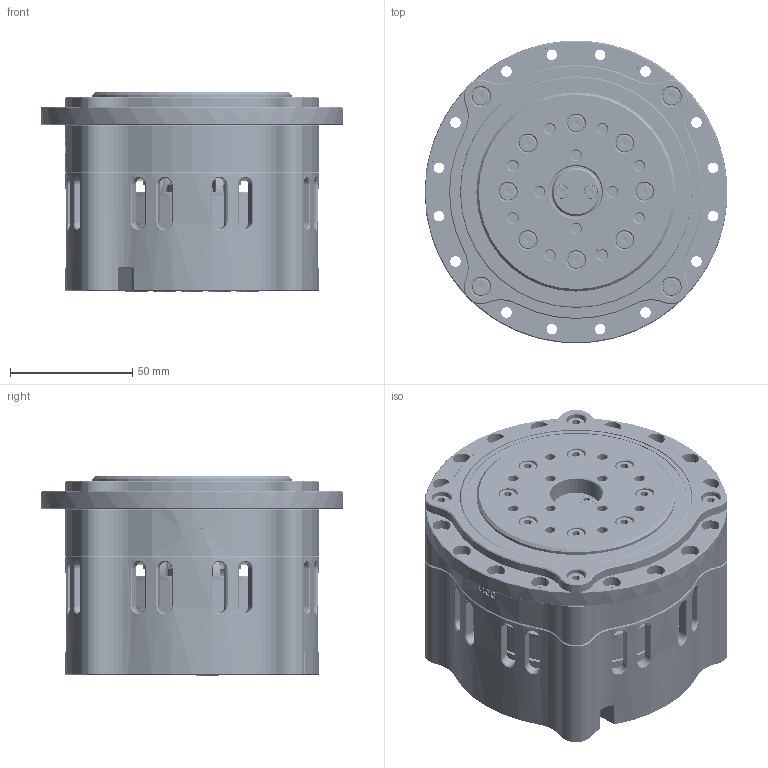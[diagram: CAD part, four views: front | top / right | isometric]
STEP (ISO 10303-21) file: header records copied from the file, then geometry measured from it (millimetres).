
FILE_DESCRIPTION(/* description */ (''),/* implementation_level */ '2;1');
FILE_NAME(/* name */ 'Macro Actuator 1-36.step',/* time_stamp */ '2026-11-10T18:20:01+08:00',/* author */ (''),/* organization */ (''),/* preprocessor_version */ 'ST-DEVELOPER v20.2',/* originating_system */ 'Autodesk Translation Framework v15.17.0.0',/* authorisation */ '');
FILE_SCHEMA (('AUTOMOTIVE_DESIGN { 1 0 10303 214 3 1 1 }'));
Products named in the file (101): QDD Actuator; Bottom section; Motor enclosure; Enclosure; Eagle_Power_BLDC; Eagle_Power_BLDC_1; Eagle_Power_BLDC_2; Ring gear (1); Adapter; Fasteners (3); ISO 4762 - M3 x 10 Steel 4.6 Plain; ISO 4762 - M3 x 10 Steel 4.6 Plain_1; ISO 4762 - M3 x 10 Steel 4.6 Plain_2; ISO 4762 - M3 x 10 Steel 4.6 Plain_3; FOC controller; 2026-01-28-18-03-13-456; 2026-01-28-18-03-35-676; 2026-01-28-18-03-35-677; 2026-01-28-18-03-35-679; 2026-01-28-18-03-35-682; 2026-01-28-18-03-35-691; 2026-01-28-18-03-35-692; 2026-01-28-18-03-35-693; 2026-01-28-18-03-35-694; 2026-01-28-18-03-35-695; 2026-01-28-18-03-35-696; 2026-01-28-18-03-35-698; 2026-01-28-18-03-35-697; 2026-01-28-18-03-35-700; 2026-01-28-18-03-35-701; 2026-01-28-18-03-35-683; 2026-01-28-18-03-35-684; 2026-01-28-18-03-35-685; 2026-01-28-18-03-35-686; 2026-01-28-18-03-35-687; 2026-01-28-18-03-35-688; 2026-01-28-18-03-35-689; 2026-01-28-18-03-35-690; 2026-01-28-18-04-02-818; 2026-01-28-18-03-15-810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
Assembly tree (143 placements, depth 7):
  QDD Actuator
    Bottom section
      Motor enclosure
        Enclosure
      Eagle_Power_BLDC
        Eagle_Power_BLDC_1
        Eagle_Power_BLDC_2
      Ring gear (1)
        Adapter
        Fasteners (3)
          ISO 4762 - M3 x 10 Steel 4.6 Plain
          ISO 4762 - M3 x 10 Steel 4.6 Plain_1
          ISO 4762 - M3 x 10 Steel 4.6 Plain_2
          ISO 4762 - M3 x 10 Steel 4.6 Plain_3
      FOC controller
        2026-01-28-18-03-42-256  x2
        2026-01-28-18-03-15-810  x2
        2026-01-28-18-03-13-456
        2026-01-28-18-03-35-676
          2026-01-28-18-03-35-677
          2026-01-28-18-03-35-679
          2026-01-28-18-03-35-682
            2026-01-28-18-03-35-683  x5
              2026-01-28-18-03-35-684
              2026-01-28-18-03-35-685
            2026-01-28-18-03-35-686  x2
              2026-01-28-18-03-35-687
              2026-01-28-18-03-35-688
              2026-01-28-18-03-35-689
              2026-01-28-18-03-35-690
            2026-01-28-18-03-35-691
              2026-01-28-18-03-35-692
              2026-01-28-18-03-35-693
              2026-01-28-18-03-35-694  x2
              2026-01-28-18-03-35-695  x2
              2026-01-28-18-03-35-696  x4
              2026-01-28-18-03-35-697  x16
              2026-01-28-18-03-35-698  x4
            2026-01-28-18-03-35-700
              2026-01-28-18-03-35-701
        2026-01-28-18-04-02-818
        FOC bracket
      Magnet holder
      Magnet
      Fasteners (2)
        ISO 4762 - M4 x 50 Steel 4.6 Plain
        ISO 4762 - M4 x 50 Steel 4.6 Plain_1
        ISO 4762 - M4 x 50 Steel 4.6 Plain_2
        ISO 4762 - M4 x 50 Steel 4.6 Plain_3
        Insertion
          M4 8mm Insert
          M4 8mm Insert (1)
          M4 8mm Insert (2)
          M4 8mm Insert (2)(Mirror)
          M4 8mm Insert (1)(Mirror)
          M4 8mm Insert(Mirror)
          M4 8mm Insert (3)
          M4 8mm Insert (4)
    Middle section
      Ring gear
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Bounding box: 124 x 124 x 81.58 mm (x, y, z)
Volume: 504703.7 mm3; surface area: 328586.8 mm2
Topology: 263 solids, 267 shells, 7537 faces, 19479 edges, 12573 vertices
Faces by surface type: plane 4630, cylinder 1909, cone 412, bspline 345, torus 159, sphere 82
Full cylindrical faces by diameter (mm): 0.5 x2, 0.63 x12, 0.66 x2, 0.7 x8, 0.75 x2, 0.946 x6, 1 x30, 1.016 x4, 1.2 x10, 1.25 x5, 1.45 x5, 2.45 x5, 2.65 x5, 2.8 x10, 2.927 x8, 3 x9, 3.2 x6, 3.3 x6, 3.4 x23, 3.65 x5, 3.7 x4, 3.85 x5, 3.908 x16, 4 x32, 4.1 x8, 4.2 x4, 4.3 x32, 5 x57, 5.16 x37, 5.4 x2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
Entity records: 208178 total; most frequent: CARTESIAN_POINT 76122, DIRECTION 26525, ORIENTED_EDGE 26504, EDGE_CURVE 13252, AXIS2_PLACEMENT_3D 9096, VERTEX_POINT 8603, LINE 8333, VECTOR 8333
